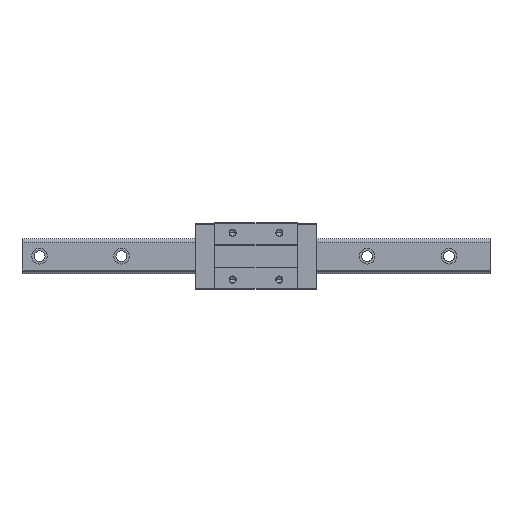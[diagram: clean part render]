
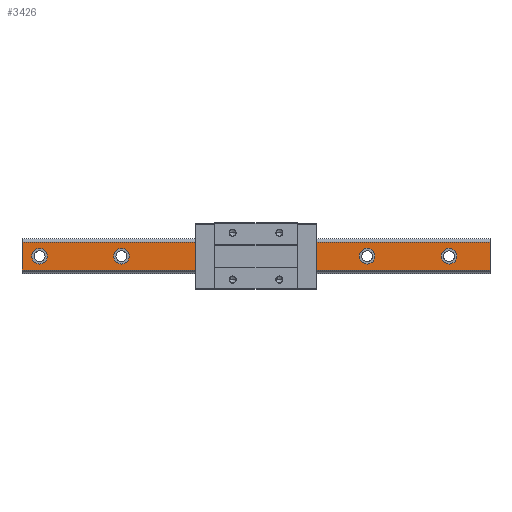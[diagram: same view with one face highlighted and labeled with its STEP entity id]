
A CAD part, top view. The second image highlights one B-rep face of the part: STEP entity #3426.
In plain terms, the highlighted planar face has unit normal (0, 0, 1).
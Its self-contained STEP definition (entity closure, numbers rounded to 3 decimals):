
#85 = VERTEX_POINT ( 'NONE', #5208 ) ;
#152 = DIRECTION ( 'NONE',  ( 0., 0., 1. ) ) ;
#215 = CARTESIAN_POINT ( 'NONE',  ( -77.5, 0., 32. ) ) ;
#230 = FACE_BOUND ( 'NONE', #1245, .T. ) ;
#255 = CIRCLE ( 'NONE', #1065, 10. ) ;
#334 = VECTOR ( 'NONE', #4169, 1000. ) ;
#339 = VERTEX_POINT ( 'NONE', #2987 ) ;
#360 = VERTEX_POINT ( 'NONE', #1653 ) ;
#362 = AXIS2_PLACEMENT_3D ( 'NONE', #4026, #152, #3657 ) ;
#394 = CARTESIAN_POINT ( 'NONE',  ( 300., 17.696, 32. ) ) ;
#470 = VERTEX_POINT ( 'NONE', #1905 ) ;
#497 = DIRECTION ( 'NONE',  ( 1., 0., 0. ) ) ;
#589 = VERTEX_POINT ( 'NONE', #1560 ) ;
#690 = CIRCLE ( 'NONE', #5124, 10. ) ;
#732 = VERTEX_POINT ( 'NONE', #3881 ) ;
#761 = VECTOR ( 'NONE', #1984, 1000. ) ;
#769 = DIRECTION ( 'NONE',  ( 0., 0., -1. ) ) ;
#819 = DIRECTION ( 'NONE',  ( 1., 0., 0. ) ) ;
#892 = CARTESIAN_POINT ( 'NONE',  ( -172.5, 0., 32. ) ) ;
#947 = CARTESIAN_POINT ( 'NONE',  ( 142.5, 0., 32. ) ) ;
#1022 = EDGE_CURVE ( 'NONE', #1392, #589, #4618, .T. ) ;
#1065 = AXIS2_PLACEMENT_3D ( 'NONE', #3686, #5450, #2019 ) ;
#1078 = FACE_OUTER_BOUND ( 'NONE', #4251, .T. ) ;
#1091 = DIRECTION ( 'NONE',  ( 0., 0., 1. ) ) ;
#1094 = LINE ( 'NONE', #4157, #4595 ) ;
#1099 = CARTESIAN_POINT ( 'NONE',  ( 300., 17.696, 32. ) ) ;
#1119 = ORIENTED_EDGE ( 'NONE', *, *, #2828, .F. ) ;
#1152 = DIRECTION ( 'NONE',  ( 0., 0., 1. ) ) ;
#1243 = DIRECTION ( 'NONE',  ( 0., 0., 1. ) ) ;
#1245 = EDGE_LOOP ( 'NONE', ( #2777, #4724 ) ) ;
#1246 = EDGE_LOOP ( 'NONE', ( #5440, #3480 ) ) ;
#1276 = EDGE_CURVE ( 'NONE', #3559, #4267, #1628, .T. ) ;
#1311 = DIRECTION ( 'NONE',  ( 0., -1., 0. ) ) ;
#1343 = ORIENTED_EDGE ( 'NONE', *, *, #1462, .F. ) ;
#1392 = VERTEX_POINT ( 'NONE', #394 ) ;
#1394 = EDGE_CURVE ( 'NONE', #1644, #4218, #5149, .T. ) ;
#1452 = CARTESIAN_POINT ( 'NONE',  ( 257.5, 0., 32. ) ) ;
#1462 = EDGE_CURVE ( 'NONE', #339, #2480, #5330, .T. ) ;
#1560 = CARTESIAN_POINT ( 'NONE',  ( -300., 17.696, 32. ) ) ;
#1572 = AXIS2_PLACEMENT_3D ( 'NONE', #2799, #769, #5419 ) ;
#1585 = ORIENTED_EDGE ( 'NONE', *, *, #1022, .T. ) ;
#1623 = CARTESIAN_POINT ( 'NONE',  ( -300., -17.696, 32. ) ) ;
#1628 = LINE ( 'NONE', #3355, #334 ) ;
#1644 = VERTEX_POINT ( 'NONE', #3676 ) ;
#1647 = DIRECTION ( 'NONE',  ( 1., 0., 0. ) ) ;
#1653 = CARTESIAN_POINT ( 'NONE',  ( 152.5, 0., 32. ) ) ;
#1673 = DIRECTION ( 'NONE',  ( 0., 0., 1. ) ) ;
#1724 = DIRECTION ( 'NONE',  ( 0., 0., 1. ) ) ;
#1741 = LINE ( 'NONE', #3465, #4424 ) ;
#1796 = AXIS2_PLACEMENT_3D ( 'NONE', #2214, #5136, #5186 ) ;
#1803 = DIRECTION ( 'NONE',  ( 0., 0., 1. ) ) ;
#1845 = EDGE_CURVE ( 'NONE', #85, #3923, #3836, .T. ) ;
#1905 = CARTESIAN_POINT ( 'NONE',  ( 132.5, 0., 32. ) ) ;
#1984 = DIRECTION ( 'NONE',  ( -1., 0., 0. ) ) ;
#1988 = FACE_BOUND ( 'NONE', #3838, .T. ) ;
#2019 = DIRECTION ( 'NONE',  ( 1., 0., 0. ) ) ;
#2088 = AXIS2_PLACEMENT_3D ( 'NONE', #4997, #1152, #3755 ) ;
#2195 = DIRECTION ( 'NONE',  ( 0., 0., 1. ) ) ;
#2214 = CARTESIAN_POINT ( 'NONE',  ( 142.5, 0., 32. ) ) ;
#2221 = AXIS2_PLACEMENT_3D ( 'NONE', #892, #1803, #497 ) ;
#2365 = DIRECTION ( 'NONE',  ( 0., 0., 1. ) ) ;
#2366 = EDGE_CURVE ( 'NONE', #732, #4289, #690, .T. ) ;
#2385 = CARTESIAN_POINT ( 'NONE',  ( -267.5, 0., 32. ) ) ;
#2387 = AXIS2_PLACEMENT_3D ( 'NONE', #5126, #1243, #819 ) ;
#2409 = PLANE ( 'NONE',  #1572 ) ;
#2455 = EDGE_CURVE ( 'NONE', #2858, #4430, #4161, .T. ) ;
#2480 = VERTEX_POINT ( 'NONE', #215 ) ;
#2596 = EDGE_CURVE ( 'NONE', #4218, #1644, #4514, .T. ) ;
#2777 = ORIENTED_EDGE ( 'NONE', *, *, #2596, .F. ) ;
#2782 = AXIS2_PLACEMENT_3D ( 'NONE', #4916, #2365, #2789 ) ;
#2789 = DIRECTION ( 'NONE',  ( 1., 0., 0. ) ) ;
#2798 = ORIENTED_EDGE ( 'NONE', *, *, #1845, .F. ) ;
#2799 = CARTESIAN_POINT ( 'NONE',  ( 300., -17.696, 32. ) ) ;
#2826 = FACE_BOUND ( 'NONE', #4507, .T. ) ;
#2828 = EDGE_CURVE ( 'NONE', #470, #360, #4329, .T. ) ;
#2835 = EDGE_CURVE ( 'NONE', #589, #4267, #1741, .T. ) ;
#2858 = VERTEX_POINT ( 'NONE', #1452 ) ;
#2882 = AXIS2_PLACEMENT_3D ( 'NONE', #5272, #3880, #3907 ) ;
#2896 = AXIS2_PLACEMENT_3D ( 'NONE', #4540, #1091, #5375 ) ;
#2899 = CARTESIAN_POINT ( 'NONE',  ( 27.5, 0., 32. ) ) ;
#2969 = EDGE_CURVE ( 'NONE', #4289, #732, #5520, .T. ) ;
#2976 = ORIENTED_EDGE ( 'NONE', *, *, #4619, .F. ) ;
#2987 = CARTESIAN_POINT ( 'NONE',  ( -57.5, 0., 32. ) ) ;
#3105 = CARTESIAN_POINT ( 'NONE',  ( 37.5, 0., 32. ) ) ;
#3152 = AXIS2_PLACEMENT_3D ( 'NONE', #5104, #1673, #1647 ) ;
#3168 = ORIENTED_EDGE ( 'NONE', *, *, #2455, .F. ) ;
#3288 = FACE_BOUND ( 'NONE', #4459, .T. ) ;
#3355 = CARTESIAN_POINT ( 'NONE',  ( 300., -17.696, 32. ) ) ;
#3426 = ADVANCED_FACE ( 'NONE', ( #5011, #2826, #5447, #1988, #3288, #230, #1078 ), #2409, .F. ) ;
#3446 = DIRECTION ( 'NONE',  ( 1., 0., 0. ) ) ;
#3465 = CARTESIAN_POINT ( 'NONE',  ( -300., -17.696, 32. ) ) ;
#3480 = ORIENTED_EDGE ( 'NONE', *, *, #2969, .F. ) ;
#3559 = VERTEX_POINT ( 'NONE', #4809 ) ;
#3642 = DIRECTION ( 'NONE',  ( 0., -1., 0. ) ) ;
#3657 = DIRECTION ( 'NONE',  ( 1., 0., 0. ) ) ;
#3676 = CARTESIAN_POINT ( 'NONE',  ( -287.5, 0., 32. ) ) ;
#3686 = CARTESIAN_POINT ( 'NONE',  ( -67.5, 0., 32. ) ) ;
#3755 = DIRECTION ( 'NONE',  ( 1., 0., 0. ) ) ;
#3768 = ORIENTED_EDGE ( 'NONE', *, *, #2835, .T. ) ;
#3836 = CIRCLE ( 'NONE', #2387, 10. ) ;
#3838 = EDGE_LOOP ( 'NONE', ( #1343, #4648 ) ) ;
#3880 = DIRECTION ( 'NONE',  ( 0., 0., 1. ) ) ;
#3881 = CARTESIAN_POINT ( 'NONE',  ( 47.5, 0., 32. ) ) ;
#3907 = DIRECTION ( 'NONE',  ( 1., 0., 0. ) ) ;
#3923 = VERTEX_POINT ( 'NONE', #5460 ) ;
#3938 = CARTESIAN_POINT ( 'NONE',  ( 237.5, 0., 32. ) ) ;
#3965 = EDGE_CURVE ( 'NONE', #3923, #85, #4115, .T. ) ;
#4026 = CARTESIAN_POINT ( 'NONE',  ( 37.5, 0., 32. ) ) ;
#4047 = CIRCLE ( 'NONE', #2782, 10. ) ;
#4115 = CIRCLE ( 'NONE', #2221, 10. ) ;
#4157 = CARTESIAN_POINT ( 'NONE',  ( 300., -17.696, 32. ) ) ;
#4161 = CIRCLE ( 'NONE', #2896, 10. ) ;
#4169 = DIRECTION ( 'NONE',  ( -1., 0., 0. ) ) ;
#4218 = VERTEX_POINT ( 'NONE', #2385 ) ;
#4251 = EDGE_LOOP ( 'NONE', ( #3768, #4763, #2976, #1585 ) ) ;
#4267 = VERTEX_POINT ( 'NONE', #1623 ) ;
#4283 = ORIENTED_EDGE ( 'NONE', *, *, #4639, .F. ) ;
#4289 = VERTEX_POINT ( 'NONE', #2899 ) ;
#4329 = CIRCLE ( 'NONE', #5064, 10. ) ;
#4350 = EDGE_CURVE ( 'NONE', #2480, #339, #255, .T. ) ;
#4398 = EDGE_CURVE ( 'NONE', #360, #470, #5235, .T. ) ;
#4424 = VECTOR ( 'NONE', #1311, 1000. ) ;
#4430 = VERTEX_POINT ( 'NONE', #3938 ) ;
#4459 = EDGE_LOOP ( 'NONE', ( #5348, #2798 ) ) ;
#4507 = EDGE_LOOP ( 'NONE', ( #5455, #1119 ) ) ;
#4514 = CIRCLE ( 'NONE', #2088, 10. ) ;
#4540 = CARTESIAN_POINT ( 'NONE',  ( 247.5, 0., 32. ) ) ;
#4595 = VECTOR ( 'NONE', #3642, 1000. ) ;
#4618 = LINE ( 'NONE', #1099, #761 ) ;
#4619 = EDGE_CURVE ( 'NONE', #1392, #3559, #1094, .T. ) ;
#4639 = EDGE_CURVE ( 'NONE', #4430, #2858, #4047, .T. ) ;
#4648 = ORIENTED_EDGE ( 'NONE', *, *, #4350, .F. ) ;
#4724 = ORIENTED_EDGE ( 'NONE', *, *, #1394, .F. ) ;
#4763 = ORIENTED_EDGE ( 'NONE', *, *, #1276, .F. ) ;
#4809 = CARTESIAN_POINT ( 'NONE',  ( 300., -17.696, 32. ) ) ;
#4916 = CARTESIAN_POINT ( 'NONE',  ( 247.5, 0., 32. ) ) ;
#4997 = CARTESIAN_POINT ( 'NONE',  ( -277.5, 0., 32. ) ) ;
#5011 = FACE_BOUND ( 'NONE', #5027, .T. ) ;
#5027 = EDGE_LOOP ( 'NONE', ( #3168, #4283 ) ) ;
#5064 = AXIS2_PLACEMENT_3D ( 'NONE', #947, #2195, #5172 ) ;
#5104 = CARTESIAN_POINT ( 'NONE',  ( -277.5, 0., 32. ) ) ;
#5124 = AXIS2_PLACEMENT_3D ( 'NONE', #3105, #1724, #3446 ) ;
#5126 = CARTESIAN_POINT ( 'NONE',  ( -172.5, 0., 32. ) ) ;
#5136 = DIRECTION ( 'NONE',  ( 0., 0., 1. ) ) ;
#5149 = CIRCLE ( 'NONE', #3152, 10. ) ;
#5172 = DIRECTION ( 'NONE',  ( 1., 0., 0. ) ) ;
#5186 = DIRECTION ( 'NONE',  ( 1., 0., 0. ) ) ;
#5208 = CARTESIAN_POINT ( 'NONE',  ( -182.5, 0., 32. ) ) ;
#5235 = CIRCLE ( 'NONE', #1796, 10. ) ;
#5272 = CARTESIAN_POINT ( 'NONE',  ( -67.5, 0., 32. ) ) ;
#5330 = CIRCLE ( 'NONE', #2882, 10. ) ;
#5348 = ORIENTED_EDGE ( 'NONE', *, *, #3965, .F. ) ;
#5375 = DIRECTION ( 'NONE',  ( 1., 0., 0. ) ) ;
#5419 = DIRECTION ( 'NONE',  ( -1., 0., 0. ) ) ;
#5440 = ORIENTED_EDGE ( 'NONE', *, *, #2366, .F. ) ;
#5447 = FACE_BOUND ( 'NONE', #1246, .T. ) ;
#5450 = DIRECTION ( 'NONE',  ( 0., 0., 1. ) ) ;
#5455 = ORIENTED_EDGE ( 'NONE', *, *, #4398, .F. ) ;
#5460 = CARTESIAN_POINT ( 'NONE',  ( -162.5, 0., 32. ) ) ;
#5520 = CIRCLE ( 'NONE', #362, 10. ) ;
